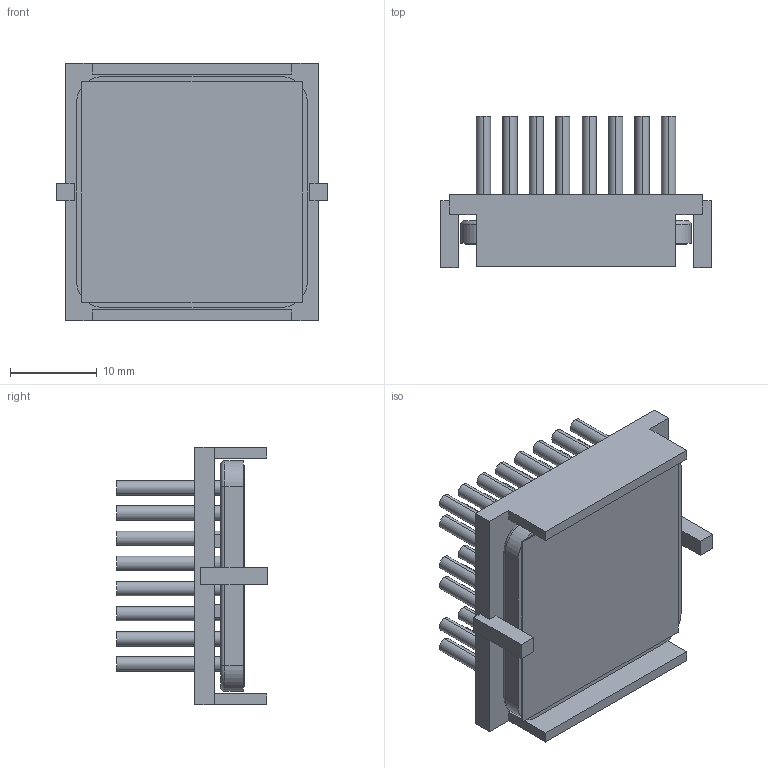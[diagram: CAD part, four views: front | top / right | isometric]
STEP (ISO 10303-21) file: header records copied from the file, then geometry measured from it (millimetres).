
FILE_DESCRIPTION (( 'STEP AP214' ), '1' );
FILE_NAME ('INM27002-15PCU-2.6K32.STEP', '2023-03-02T23:45:55', ( '' ), ( '' ), 'SwSTEP 2.0', 'SolidWorks 2020', '' );
FILE_SCHEMA (( 'AUTOMOTIVE_DESIGN' ));
Length unit declared in the file: inch
Products named in the file (1): INM27002-15PCU-2.6K32
Bounding box: 31.2 x 17.4 x 29.7 mm (x, y, z)
Volume: 4619.6 mm3; surface area: 8492.2 mm2
Topology: 3 solids, 3 shells, 246 faces, 544 edges, 360 vertices
Faces by surface type: plane 122, cylinder 120, torus 4
Entity records: 10132 total; most frequent: DIRECTION 1282, CARTESIAN_POINT 1151, ORIENTED_EDGE 1088, EDGE_CURVE 544, AXIS2_PLACEMENT_3D 491, VERTEX_POINT 360, EDGE_LOOP 304, LINE 300
